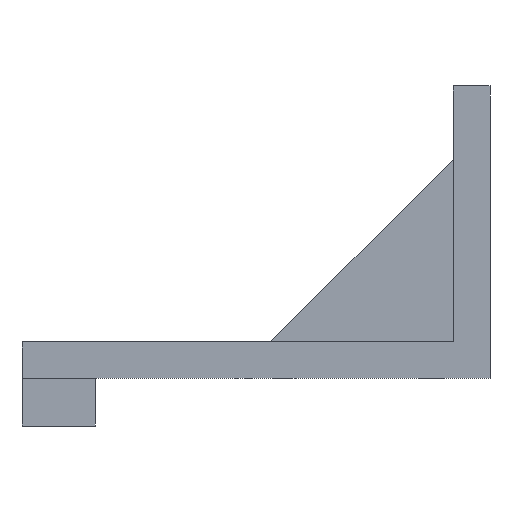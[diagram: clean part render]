
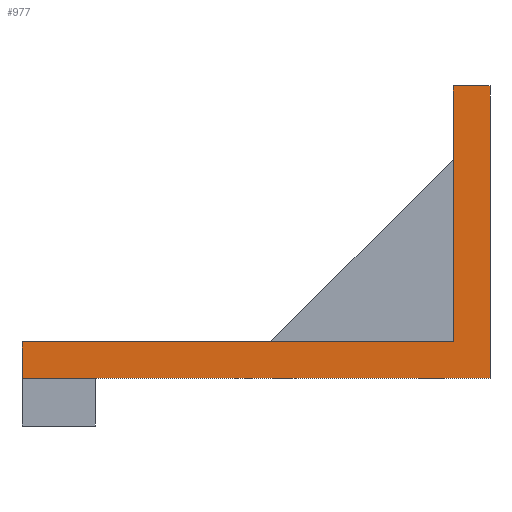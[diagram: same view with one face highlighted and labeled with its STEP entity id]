
A CAD part, front view. The second image highlights one B-rep face of the part: STEP entity #977.
In plain terms, the highlighted planar face has unit normal (0, -1, 0).
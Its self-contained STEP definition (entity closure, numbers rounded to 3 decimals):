
#22 = VERTEX_POINT('',#23);
#23 = CARTESIAN_POINT('',(-46.,-31.,5.));
#32 = PLANE('',#33);
#33 = AXIS2_PLACEMENT_3D('',#34,#35,#36);
#34 = CARTESIAN_POINT('',(-46.,-31.,0.));
#35 = DIRECTION('',(1.,0.,-0.));
#36 = DIRECTION('',(0.,0.,1.));
#44 = PLANE('',#45);
#45 = AXIS2_PLACEMENT_3D('',#46,#47,#48);
#46 = CARTESIAN_POINT('',(-46.,-31.,5.));
#47 = DIRECTION('',(0.,0.,1.));
#48 = DIRECTION('',(1.,0.,-0.));
#56 = EDGE_CURVE('',#57,#22,#59,.T.);
#57 = VERTEX_POINT('',#58);
#58 = CARTESIAN_POINT('',(-46.,-31.,0.));
#59 = SURFACE_CURVE('',#60,(#64,#71),.PCURVE_S1.);
#60 = LINE('',#61,#62);
#61 = CARTESIAN_POINT('',(-46.,-31.,0.));
#62 = VECTOR('',#63,1.);
#63 = DIRECTION('',(0.,0.,1.));
#64 = PCURVE('',#32,#65);
#65 = DEFINITIONAL_REPRESENTATION('',(#66),#70);
#66 = LINE('',#67,#68);
#67 = CARTESIAN_POINT('',(0.,0.));
#68 = VECTOR('',#69,1.);
#69 = DIRECTION('',(1.,0.));
#70 = ( GEOMETRIC_REPRESENTATION_CONTEXT(2) 
PARAMETRIC_REPRESENTATION_CONTEXT() REPRESENTATION_CONTEXT('2D SPACE',''
  ) );
#71 = PCURVE('',#72,#77);
#72 = PLANE('',#73);
#73 = AXIS2_PLACEMENT_3D('',#74,#75,#76);
#74 = CARTESIAN_POINT('',(-46.,-31.,0.));
#75 = DIRECTION('',(-0.,1.,0.));
#76 = DIRECTION('',(0.,0.,1.));
#77 = DEFINITIONAL_REPRESENTATION('',(#78),#82);
#78 = LINE('',#79,#80);
#79 = CARTESIAN_POINT('',(0.,0.));
#80 = VECTOR('',#81,1.);
#81 = DIRECTION('',(1.,0.));
#82 = ( GEOMETRIC_REPRESENTATION_CONTEXT(2) 
PARAMETRIC_REPRESENTATION_CONTEXT() REPRESENTATION_CONTEXT('2D SPACE',''
  ) );
#100 = PLANE('',#101);
#101 = AXIS2_PLACEMENT_3D('',#102,#103,#104);
#102 = CARTESIAN_POINT('',(-46.,-31.,0.));
#103 = DIRECTION('',(0.,0.,1.));
#104 = DIRECTION('',(1.,0.,-0.));
#272 = EDGE_CURVE('',#22,#273,#275,.T.);
#273 = VERTEX_POINT('',#274);
#274 = CARTESIAN_POINT('',(13.,-31.,5.));
#275 = SURFACE_CURVE('',#276,(#280,#287),.PCURVE_S1.);
#276 = LINE('',#277,#278);
#277 = CARTESIAN_POINT('',(-46.,-31.,5.));
#278 = VECTOR('',#279,1.);
#279 = DIRECTION('',(1.,0.,-0.));
#280 = PCURVE('',#44,#281);
#281 = DEFINITIONAL_REPRESENTATION('',(#282),#286);
#282 = LINE('',#283,#284);
#283 = CARTESIAN_POINT('',(0.,0.));
#284 = VECTOR('',#285,1.);
#285 = DIRECTION('',(1.,0.));
#286 = ( GEOMETRIC_REPRESENTATION_CONTEXT(2) 
PARAMETRIC_REPRESENTATION_CONTEXT() REPRESENTATION_CONTEXT('2D SPACE',''
  ) );
#287 = PCURVE('',#72,#288);
#288 = DEFINITIONAL_REPRESENTATION('',(#289),#293);
#289 = LINE('',#290,#291);
#290 = CARTESIAN_POINT('',(5.,0.));
#291 = VECTOR('',#292,1.);
#292 = DIRECTION('',(0.,1.));
#293 = ( GEOMETRIC_REPRESENTATION_CONTEXT(2) 
PARAMETRIC_REPRESENTATION_CONTEXT() REPRESENTATION_CONTEXT('2D SPACE',''
  ) );
#310 = PLANE('',#311);
#311 = AXIS2_PLACEMENT_3D('',#312,#313,#314);
#312 = CARTESIAN_POINT('',(13.,-31.,2.));
#313 = DIRECTION('',(1.,0.,-0.));
#314 = DIRECTION('',(0.,0.,1.));
#720 = PLANE('',#721);
#721 = AXIS2_PLACEMENT_3D('',#722,#723,#724);
#722 = CARTESIAN_POINT('',(13.,-31.,40.));
#723 = DIRECTION('',(0.,0.,1.));
#724 = DIRECTION('',(1.,0.,-0.));
#746 = PLANE('',#747);
#747 = AXIS2_PLACEMENT_3D('',#748,#749,#750);
#748 = CARTESIAN_POINT('',(18.,-31.,0.));
#749 = DIRECTION('',(1.,0.,-0.));
#750 = DIRECTION('',(0.,0.,1.));
#762 = EDGE_CURVE('',#57,#763,#765,.T.);
#763 = VERTEX_POINT('',#764);
#764 = CARTESIAN_POINT('',(18.,-31.,0.));
#765 = SURFACE_CURVE('',#766,(#770,#777),.PCURVE_S1.);
#766 = LINE('',#767,#768);
#767 = CARTESIAN_POINT('',(-46.,-31.,0.));
#768 = VECTOR('',#769,1.);
#769 = DIRECTION('',(1.,0.,-0.));
#770 = PCURVE('',#100,#771);
#771 = DEFINITIONAL_REPRESENTATION('',(#772),#776);
#772 = LINE('',#773,#774);
#773 = CARTESIAN_POINT('',(0.,0.));
#774 = VECTOR('',#775,1.);
#775 = DIRECTION('',(1.,0.));
#776 = ( GEOMETRIC_REPRESENTATION_CONTEXT(2) 
PARAMETRIC_REPRESENTATION_CONTEXT() REPRESENTATION_CONTEXT('2D SPACE',''
  ) );
#777 = PCURVE('',#72,#778);
#778 = DEFINITIONAL_REPRESENTATION('',(#779),#783);
#779 = LINE('',#780,#781);
#780 = CARTESIAN_POINT('',(0.,0.));
#781 = VECTOR('',#782,1.);
#782 = DIRECTION('',(0.,1.));
#783 = ( GEOMETRIC_REPRESENTATION_CONTEXT(2) 
PARAMETRIC_REPRESENTATION_CONTEXT() REPRESENTATION_CONTEXT('2D SPACE',''
  ) );
#977 = ADVANCED_FACE('',(#978),#72,.F.);
#978 = FACE_BOUND('',#979,.F.);
#979 = EDGE_LOOP('',(#980,#1003,#1004,#1005,#1006,#1029));
#980 = ORIENTED_EDGE('',*,*,#981,.F.);
#981 = EDGE_CURVE('',#763,#982,#984,.T.);
#982 = VERTEX_POINT('',#983);
#983 = CARTESIAN_POINT('',(18.,-31.,40.));
#984 = SURFACE_CURVE('',#985,(#989,#996),.PCURVE_S1.);
#985 = LINE('',#986,#987);
#986 = CARTESIAN_POINT('',(18.,-31.,0.));
#987 = VECTOR('',#988,1.);
#988 = DIRECTION('',(0.,0.,1.));
#989 = PCURVE('',#72,#990);
#990 = DEFINITIONAL_REPRESENTATION('',(#991),#995);
#991 = LINE('',#992,#993);
#992 = CARTESIAN_POINT('',(0.,64.));
#993 = VECTOR('',#994,1.);
#994 = DIRECTION('',(1.,0.));
#995 = ( GEOMETRIC_REPRESENTATION_CONTEXT(2) 
PARAMETRIC_REPRESENTATION_CONTEXT() REPRESENTATION_CONTEXT('2D SPACE',''
  ) );
#996 = PCURVE('',#746,#997);
#997 = DEFINITIONAL_REPRESENTATION('',(#998),#1002);
#998 = LINE('',#999,#1000);
#999 = CARTESIAN_POINT('',(0.,0.));
#1000 = VECTOR('',#1001,1.);
#1001 = DIRECTION('',(1.,0.));
#1002 = ( GEOMETRIC_REPRESENTATION_CONTEXT(2) 
PARAMETRIC_REPRESENTATION_CONTEXT() REPRESENTATION_CONTEXT('2D SPACE',''
  ) );
#1003 = ORIENTED_EDGE('',*,*,#762,.F.);
#1004 = ORIENTED_EDGE('',*,*,#56,.T.);
#1005 = ORIENTED_EDGE('',*,*,#272,.T.);
#1006 = ORIENTED_EDGE('',*,*,#1007,.T.);
#1007 = EDGE_CURVE('',#273,#1008,#1010,.T.);
#1008 = VERTEX_POINT('',#1009);
#1009 = CARTESIAN_POINT('',(13.,-31.,40.));
#1010 = SURFACE_CURVE('',#1011,(#1015,#1022),.PCURVE_S1.);
#1011 = LINE('',#1012,#1013);
#1012 = CARTESIAN_POINT('',(13.,-31.,2.));
#1013 = VECTOR('',#1014,1.);
#1014 = DIRECTION('',(0.,0.,1.));
#1015 = PCURVE('',#72,#1016);
#1016 = DEFINITIONAL_REPRESENTATION('',(#1017),#1021);
#1017 = LINE('',#1018,#1019);
#1018 = CARTESIAN_POINT('',(2.,59.));
#1019 = VECTOR('',#1020,1.);
#1020 = DIRECTION('',(1.,0.));
#1021 = ( GEOMETRIC_REPRESENTATION_CONTEXT(2) 
PARAMETRIC_REPRESENTATION_CONTEXT() REPRESENTATION_CONTEXT('2D SPACE',''
  ) );
#1022 = PCURVE('',#310,#1023);
#1023 = DEFINITIONAL_REPRESENTATION('',(#1024),#1028);
#1024 = LINE('',#1025,#1026);
#1025 = CARTESIAN_POINT('',(0.,0.));
#1026 = VECTOR('',#1027,1.);
#1027 = DIRECTION('',(1.,0.));
#1028 = ( GEOMETRIC_REPRESENTATION_CONTEXT(2) 
PARAMETRIC_REPRESENTATION_CONTEXT() REPRESENTATION_CONTEXT('2D SPACE',''
  ) );
#1029 = ORIENTED_EDGE('',*,*,#1030,.T.);
#1030 = EDGE_CURVE('',#1008,#982,#1031,.T.);
#1031 = SURFACE_CURVE('',#1032,(#1036,#1043),.PCURVE_S1.);
#1032 = LINE('',#1033,#1034);
#1033 = CARTESIAN_POINT('',(13.,-31.,40.));
#1034 = VECTOR('',#1035,1.);
#1035 = DIRECTION('',(1.,0.,-0.));
#1036 = PCURVE('',#72,#1037);
#1037 = DEFINITIONAL_REPRESENTATION('',(#1038),#1042);
#1038 = LINE('',#1039,#1040);
#1039 = CARTESIAN_POINT('',(40.,59.));
#1040 = VECTOR('',#1041,1.);
#1041 = DIRECTION('',(0.,1.));
#1042 = ( GEOMETRIC_REPRESENTATION_CONTEXT(2) 
PARAMETRIC_REPRESENTATION_CONTEXT() REPRESENTATION_CONTEXT('2D SPACE',''
  ) );
#1043 = PCURVE('',#720,#1044);
#1044 = DEFINITIONAL_REPRESENTATION('',(#1045),#1049);
#1045 = LINE('',#1046,#1047);
#1046 = CARTESIAN_POINT('',(0.,0.));
#1047 = VECTOR('',#1048,1.);
#1048 = DIRECTION('',(1.,0.));
#1049 = ( GEOMETRIC_REPRESENTATION_CONTEXT(2) 
PARAMETRIC_REPRESENTATION_CONTEXT() REPRESENTATION_CONTEXT('2D SPACE',''
  ) );
